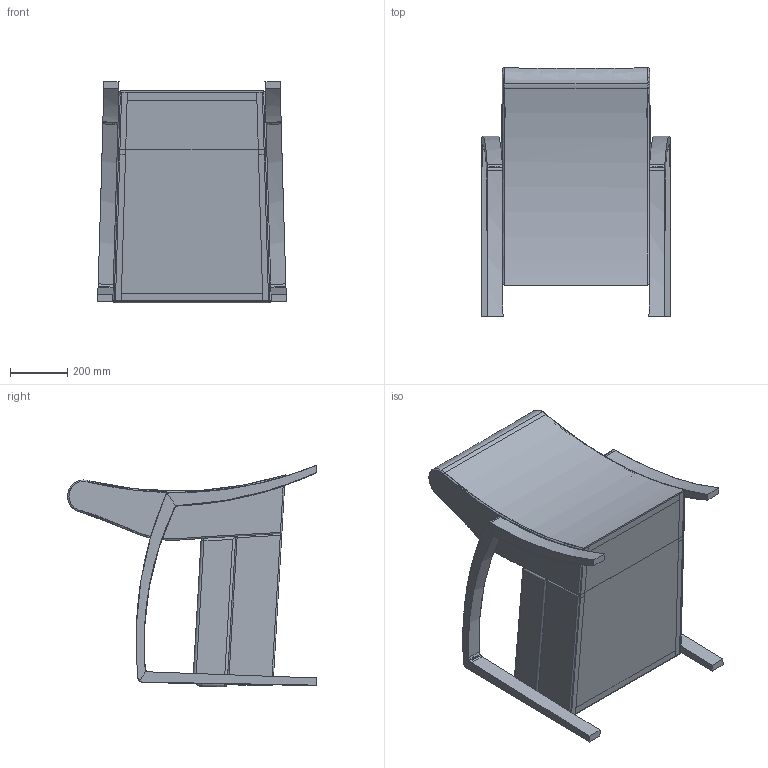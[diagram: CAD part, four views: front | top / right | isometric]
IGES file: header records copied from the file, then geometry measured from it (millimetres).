
Start section: SolidWorks IGES file using analytic representation for surfaces
Global section: file name: C:\Users\emanuel\Desktop\Siana_3D\Regina SG822.IGS; native system: SolidWorks 2015; preprocessor: SolidWorks 2015; author: Emanuel; date: 151113.155037; units: millimetre
Bounding box: 661.01 x 869.11 x 773.26 mm (x, y, z)
Surface area: 4971833.4 mm2 (no closed solid volume)
Topology: 0 solids, 0 shells, 476 faces, 5492 edges, 5476 vertices
Faces by surface type: bspline 359, revolution 117
